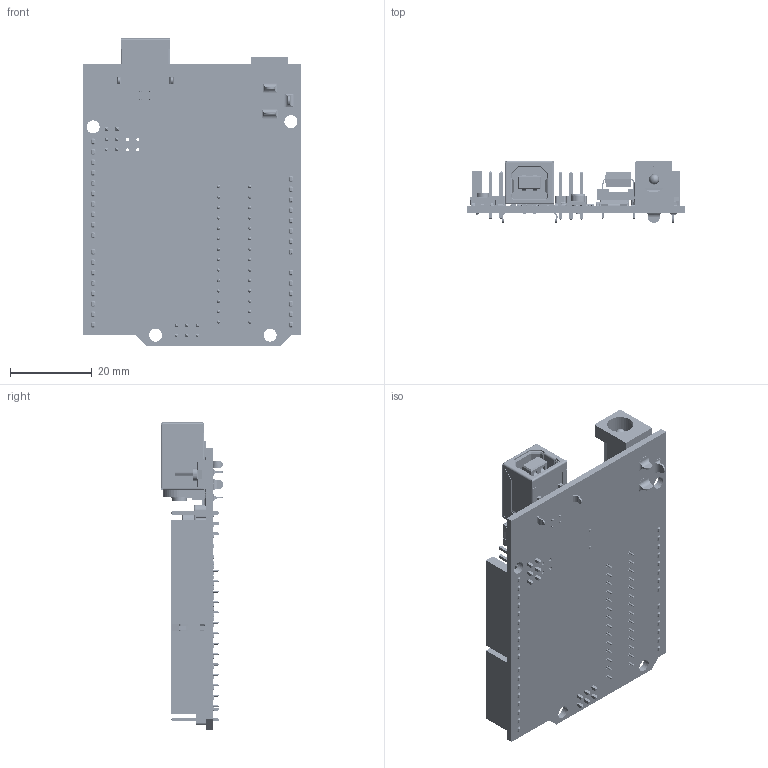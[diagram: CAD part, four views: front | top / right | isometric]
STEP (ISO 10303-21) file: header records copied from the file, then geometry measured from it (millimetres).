
FILE_DESCRIPTION (( 'STEP AP203' ), '1' );
FILE_NAME ('arduino uno.STEP', '2014-01-03T17:17:45', ( 'A' ), ( '' ), 'SwSTEP 2.0', 'SolidWorks 2012', '' );
FILE_SCHEMA (( 'CONFIG_CONTROL_DESIGN' ));
Length unit declared in the file: millimetre
Products named in the file (39): arduino uno; RESET BUTTON; RESET; RESET CORE; MLC0603; m7 diode; blm21; 603 resistor; cd1206 diode; lp2985dgkr; lmv358; mf-msmf050-2; ssot3; 603 cap on pad; PADS001; 16mhz crystal - measured; 220 RESISTOR PACK; 103 RESISTOR PACK; 102 RESISTOR PACK; ATMEL328P; 10 PORT HEADER; 6 PORT HEADER; 8 PORT HEADER; atmega16u2; dip28; dip socket pin; led; nano - reg; 2pin_header__02; crystal; power jack; USB type b.SLDPRT; usb btm contact; usb top contact; USB core; USB SHELL; 47uf CAP Dcase; unoboard blue
Assembly tree (87 placements, depth 3):
  arduino uno
    unoboard blue
    47uf CAP Dcase  x2
    USB type b.SLDPRT
      USB SHELL
      USB core
      usb top contact  x2
      usb btm contact  x2
    power jack
    crystal
    2pin_header__02  x6
    nano - reg
    led  x4
    dip28
      dip28
      dip socket pin  x28
    atmega16u2
    8 PORT HEADER  x2
    6 PORT HEADER
    10 PORT HEADER
    ATMEL328P
    102 RESISTOR PACK  x2
    103 RESISTOR PACK
    220 RESISTOR PACK
    16mhz crystal - measured
    PADS001
    603 cap on pad  x8
    ssot3
    mf-msmf050-2
    lmv358
    lp2985dgkr
    cd1206 diode  x2
    603 resistor
    blm21
    m7 diode
    MLC0603  x2
    RESET BUTTON
      RESET CORE
      RESET
Bounding box: 53.34 x 15.25 x 74.93 mm (x, y, z)
Volume: 12198.2 mm3; surface area: 21642.3 mm2
Topology: 158 solids, 158 shells, 8954 faces, 23484 edges, 15143 vertices
Faces by surface type: plane 5304, cylinder 2009, bspline 955, torus 423, cone 174, sphere 89
Entity records: 238797 total; most frequent: CARTESIAN_POINT 67646, ORIENTED_EDGE 36408, DIRECTION 30939, EDGE_CURVE 18204, VECTOR 12745, LINE 12745, VERTEX_POINT 11915, AXIS2_PLACEMENT_3D 9097
